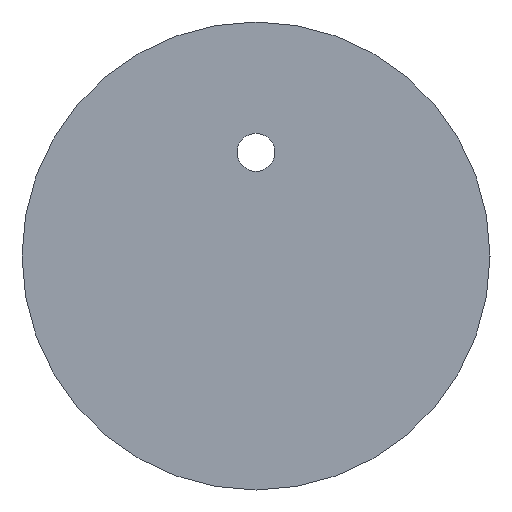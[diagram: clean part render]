
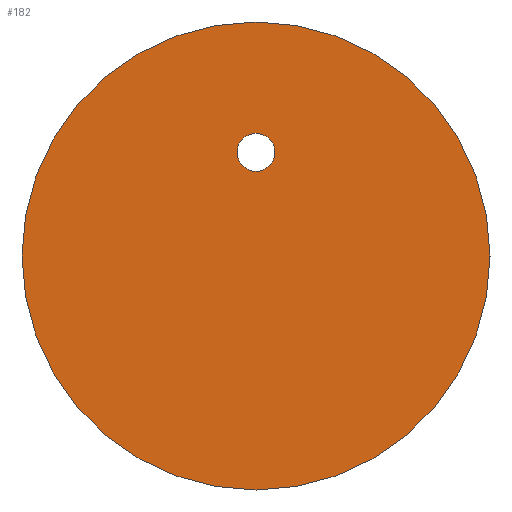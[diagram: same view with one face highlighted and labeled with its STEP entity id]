
A CAD part, left-side view. The second image highlights one B-rep face of the part: STEP entity #182.
In plain terms, the highlighted planar face has unit normal (-1, 0, 0).
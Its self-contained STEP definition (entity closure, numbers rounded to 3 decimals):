
#123=CARTESIAN_POINT('',(-1.4,0.,10.5));
#124=VERTEX_POINT('',#123);
#131=CARTESIAN_POINT('',(-1.4,0.,0.));
#132=DIRECTION('',(-0.,-0.,1.));
#133=DIRECTION('',(1.,0.,0.));
#134=AXIS2_PLACEMENT_3D('',#131,#133,#132);
#135=CIRCLE('',#134,10.5);
#136=EDGE_CURVE('',#124,#124,#135,.T.);
#163=CARTESIAN_POINT('',(-1.4,0.,0.));
#164=DIRECTION('',(0.,0.,1.));
#165=DIRECTION('',(-1.,0.,0.));
#166=AXIS2_PLACEMENT_3D('',#163,#165,#164);
#167=PLANE('',#166);
#168=ORIENTED_EDGE('',*,*,#136,.F.);
#169=EDGE_LOOP('',(#168));
#170=FACE_OUTER_BOUND('',#169,.T.);
#171=CARTESIAN_POINT('',(-1.4,0.,5.5));
#172=VERTEX_POINT('',#171);
#173=CARTESIAN_POINT('',(-1.4,0.,4.65));
#174=DIRECTION('',(-0.,-0.,1.));
#175=DIRECTION('',(1.,0.,0.));
#176=AXIS2_PLACEMENT_3D('',#173,#175,#174);
#177=CIRCLE('',#176,0.85);
#178=EDGE_CURVE('',#172,#172,#177,.T.);
#179=ORIENTED_EDGE('E11',*,*,#178,.T.);
#180=EDGE_LOOP('',(#179));
#181=FACE_BOUND('',#180,.T.);
#182=ADVANCED_FACE('F13',(#170,#181),#167,.T.);
